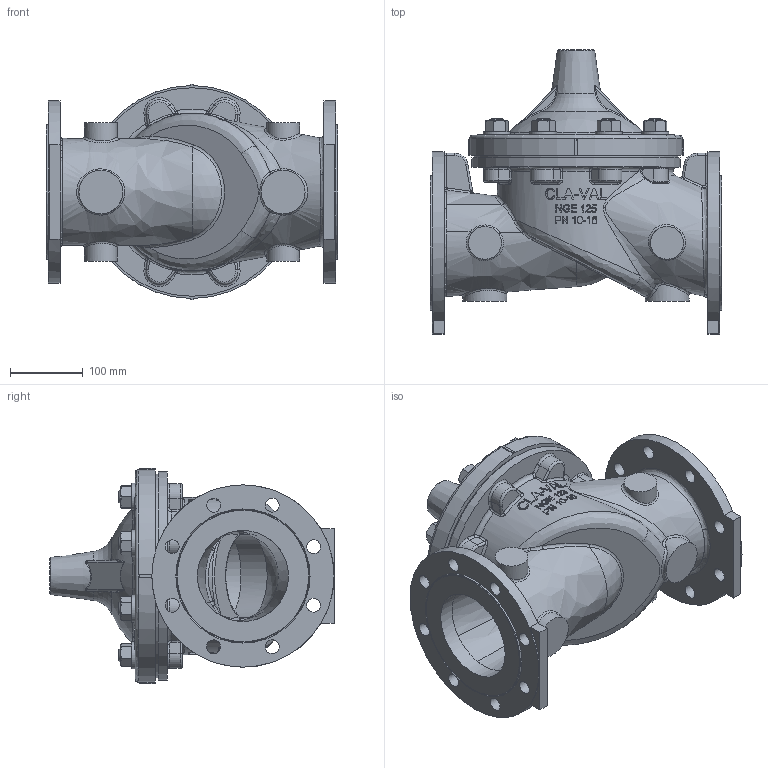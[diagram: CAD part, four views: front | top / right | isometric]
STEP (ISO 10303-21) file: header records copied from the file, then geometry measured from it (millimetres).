
FILE_DESCRIPTION(/* description */ (''),/* implementation_level */ '2;1');
FILE_NAME(/* name */ 'G:\Doc_Liberes\SymbolesCAD\Modeles_3D\FichierSTP\VanneDeBase\NGE125-16RF.stp',/* time_stamp */ '2023-08-17T10:28:35+02:00',/* author */ ('marc'),/* organization */ (''),/* preprocessor_version */ 'ST-DEVELOPER v18.1',/* originating_system */ 'Autodesk Inventor 2022',/* authorisation */ '');
FILE_SCHEMA (('AUTOMOTIVE_DESIGN { 1 0 10303 214 3 1 1 }'));
Products named in the file (1): NGE125-16_Simplifier_1
Bounding box: 400 x 389.78 x 295 mm (x, y, z)
Volume: 6799309.6 mm3; surface area: 938102.9 mm2
Topology: 1 solids, 1 shells, 1889 faces, 5137 edges, 3330 vertices
Faces by surface type: plane 765, bspline 482, cone 351, cylinder 219, torus 65, sphere 7
Full cylindrical faces by diameter (mm): 19 x16, 19.05 x16, 22 x1, 37.287 x8, 45 x4, 50.8 x1, 60 x2, 120.8 x1, 125 x2, 130 x1, 133.6 x2, 184 x2, 250 x2, 279 x1, 286 x1
Entity records: 96678 total; most frequent: CARTESIAN_POINT 52785, ORIENTED_EDGE 10240, DIRECTION 7677, EDGE_CURVE 5120, VERTEX_POINT 3331, AXIS2_PLACEMENT_3D 2977, EDGE_LOOP 2037, FACE_OUTER_BOUND 1889
